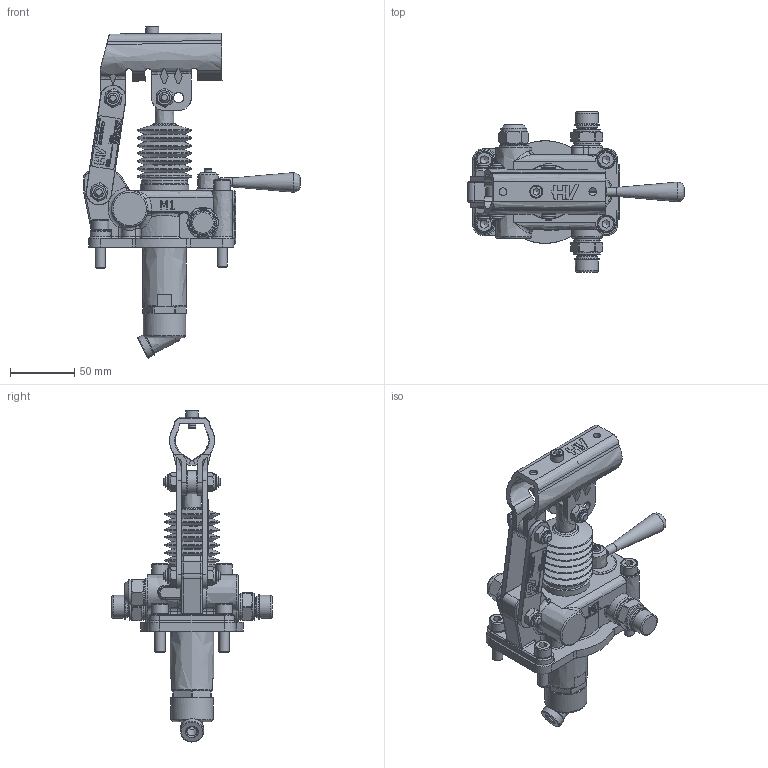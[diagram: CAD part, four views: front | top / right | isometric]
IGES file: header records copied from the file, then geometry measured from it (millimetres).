
Global section: file name: No Iges File Name specified; native system: Autodesk Inventor 2013; preprocessor: AutoDesk Inventor Iges Exporter R2013; author: christian.scardovi; date: 20240229.160401; units: millimetre
Bounding box: 169 x 125 x 258.8 mm (x, y, z)
Volume: 469918.3 mm3; surface area: 123465.7 mm2
Topology: 3 solids, 3 shells, 1556 faces, 3936 edges, 2496 vertices
Faces by surface type: bspline 1556
